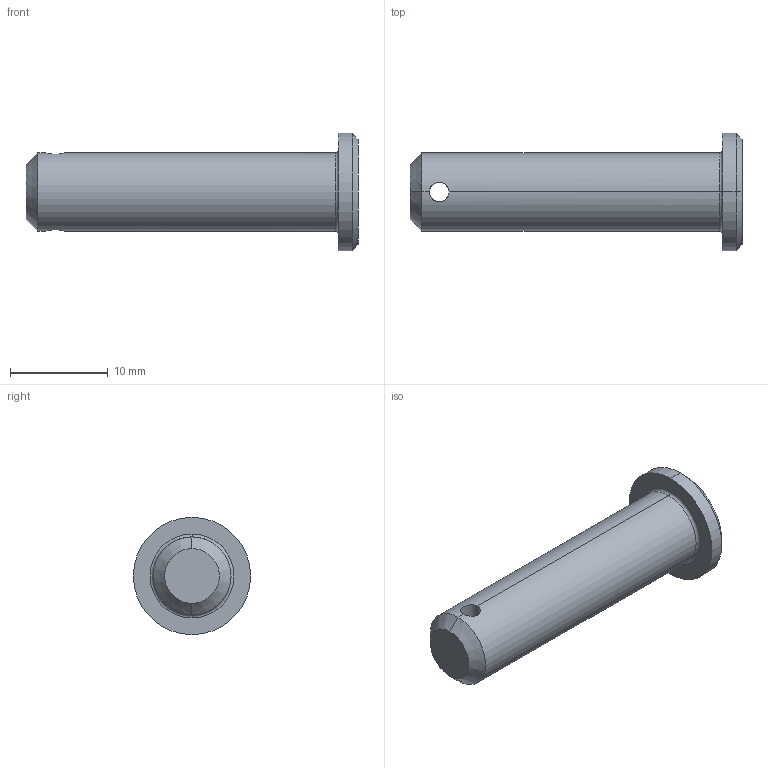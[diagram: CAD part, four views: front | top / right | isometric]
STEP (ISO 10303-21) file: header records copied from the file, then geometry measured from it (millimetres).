
FILE_DESCRIPTION (( 'STEP AP203' ), '1' );
FILE_NAME ('Wiberger-sms2360_8x32.step', '2012-10-09T08:58:57', ( 'Magnus' ), ( 'Wiberger' ), 'SwSTEP 2.0', 'SolidWorks 2011', '' );
FILE_SCHEMA (( 'CONFIG_CONTROL_DESIGN' ));
Length unit declared in the file: millimetre
Products named in the file (1): Wiberger-sms2360_8x32
Bounding box: 34 x 12 x 12 mm (x, y, z)
Volume: 1787.4 mm3; surface area: 1112.5 mm2
Topology: 1 solids, 1 shells, 15 faces, 32 edges, 18 vertices
Faces by surface type: cylinder 6, cone 4, plane 3, torus 2
Entity records: 543 total; most frequent: CARTESIAN_POINT 134, DIRECTION 76, ORIENTED_EDGE 64, EDGE_CURVE 32, AXIS2_PLACEMENT_3D 32, VERTEX_POINT 18, EDGE_LOOP 16, CIRCLE 16
